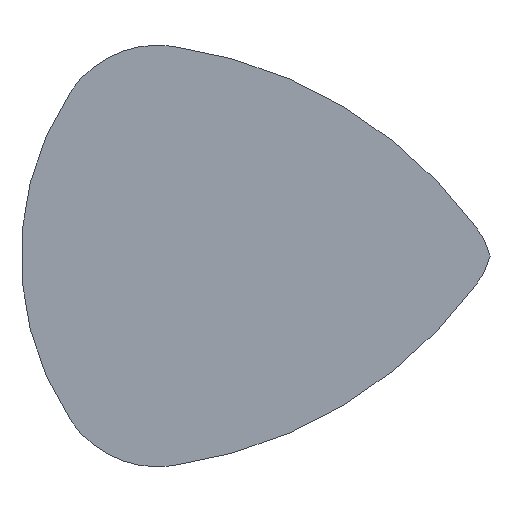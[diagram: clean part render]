
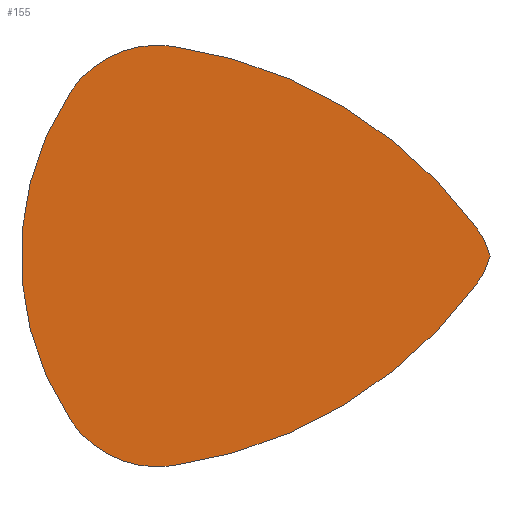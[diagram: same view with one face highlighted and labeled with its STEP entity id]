
A CAD part, front view. The second image highlights one B-rep face of the part: STEP entity #155.
In plain terms, the highlighted planar face has unit normal (0, -1, 0).
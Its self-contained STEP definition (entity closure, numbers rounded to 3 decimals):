
#16=PLANE('',#198);
#25=FACE_OUTER_BOUND('',#34,.T.);
#34=EDGE_LOOP('',(#133,#134,#135,#136,#137,#138,#139));
#49=CIRCLE('',#177,5.243);
#51=CIRCLE('',#180,30.476);
#53=CIRCLE('',#183,7.);
#55=CIRCLE('',#186,5.243);
#57=CIRCLE('',#189,30.476);
#59=CIRCLE('',#192,7.);
#61=CIRCLE('',#195,19.819);
#63=VERTEX_POINT('',#256);
#64=VERTEX_POINT('',#257);
#67=VERTEX_POINT('',#265);
#69=VERTEX_POINT('',#271);
#71=VERTEX_POINT('',#277);
#73=VERTEX_POINT('',#283);
#75=VERTEX_POINT('',#289);
#77=EDGE_CURVE('',#63,#64,#49,.T.);
#81=EDGE_CURVE('',#67,#63,#51,.T.);
#84=EDGE_CURVE('',#69,#67,#53,.T.);
#87=EDGE_CURVE('',#71,#64,#55,.T.);
#90=EDGE_CURVE('',#73,#71,#57,.T.);
#93=EDGE_CURVE('',#75,#73,#59,.T.);
#96=EDGE_CURVE('',#69,#75,#61,.T.);
#133=ORIENTED_EDGE('',*,*,#96,.F.);
#134=ORIENTED_EDGE('',*,*,#84,.T.);
#135=ORIENTED_EDGE('',*,*,#81,.T.);
#136=ORIENTED_EDGE('',*,*,#77,.T.);
#137=ORIENTED_EDGE('',*,*,#87,.F.);
#138=ORIENTED_EDGE('',*,*,#90,.F.);
#139=ORIENTED_EDGE('',*,*,#93,.F.);
#155=ADVANCED_FACE('',(#25),#16,.F.);
#177=AXIS2_PLACEMENT_3D('',#258,#203,#204);
#180=AXIS2_PLACEMENT_3D('',#266,#211,#212);
#183=AXIS2_PLACEMENT_3D('',#272,#218,#219);
#186=AXIS2_PLACEMENT_3D('',#278,#225,#226);
#189=AXIS2_PLACEMENT_3D('',#284,#232,#233);
#192=AXIS2_PLACEMENT_3D('',#290,#239,#240);
#195=AXIS2_PLACEMENT_3D('',#295,#246,#247);
#198=AXIS2_PLACEMENT_3D('',#298,#252,#253);
#203=DIRECTION('center_axis',(0.,-1.,0.));
#204=DIRECTION('ref_axis',(0.808,0.,-0.59));
#211=DIRECTION('center_axis',(0.,-1.,0.));
#212=DIRECTION('ref_axis',(0.139,0.,-0.99));
#218=DIRECTION('center_axis',(0.,-1.,0.));
#219=DIRECTION('ref_axis',(-0.834,0.,-0.552));
#225=DIRECTION('center_axis',(0.,1.,0.));
#226=DIRECTION('ref_axis',(0.808,0.,0.59));
#232=DIRECTION('center_axis',(0.,1.,0.));
#233=DIRECTION('ref_axis',(0.139,0.,0.99));
#239=DIRECTION('center_axis',(0.,1.,0.));
#240=DIRECTION('ref_axis',(-0.834,0.,0.552));
#246=DIRECTION('center_axis',(0.,1.,0.));
#247=DIRECTION('ref_axis',(-1.,0.,0.));
#252=DIRECTION('center_axis',(0.,1.,0.));
#253=DIRECTION('ref_axis',(0.,0.,1.));
#256=CARTESIAN_POINT('',(-1.521,0.,-1.805));
#257=CARTESIAN_POINT('',(-0.673,0.,0.));
#258=CARTESIAN_POINT('Origin',(-5.755,0.,1.287));
#265=CARTESIAN_POINT('',(-21.892,0.,-14.013));
#266=CARTESIAN_POINT('Origin',(-26.135,0.,16.166));
#271=CARTESIAN_POINT('',(-28.702,0.,-10.948));
#272=CARTESIAN_POINT('Origin',(-22.867,0.,-7.081));
#277=CARTESIAN_POINT('',(-1.521,0.,1.805));
#278=CARTESIAN_POINT('Origin',(-5.755,0.,-1.287));
#283=CARTESIAN_POINT('',(-21.892,0.,14.013));
#284=CARTESIAN_POINT('Origin',(-26.135,0.,-16.166));
#289=CARTESIAN_POINT('',(-28.702,0.,10.948));
#290=CARTESIAN_POINT('Origin',(-22.867,0.,7.081));
#295=CARTESIAN_POINT('Origin',(-12.181,0.,0.));
#298=CARTESIAN_POINT('Origin',(-17.226,0.,4.531));
